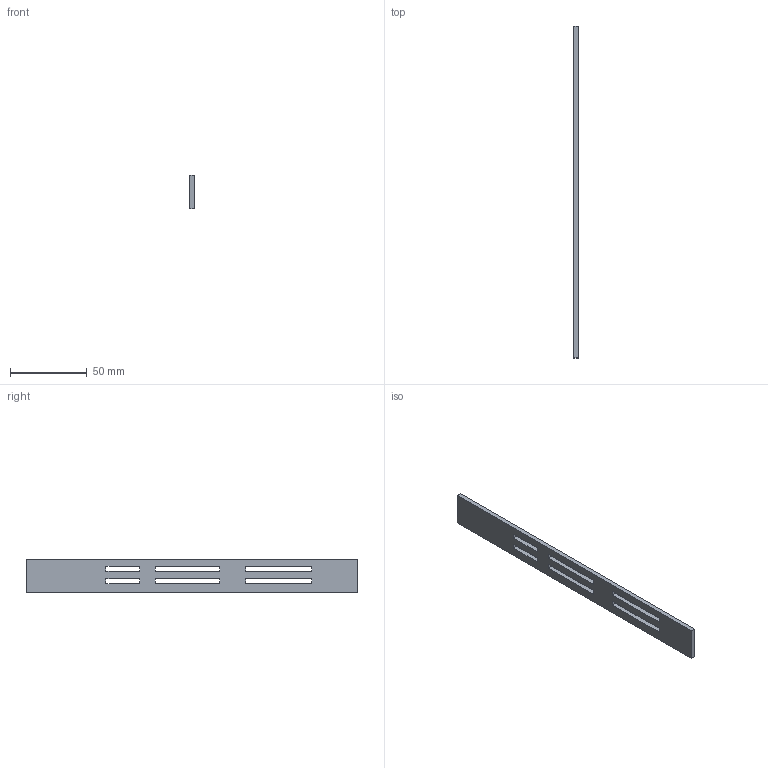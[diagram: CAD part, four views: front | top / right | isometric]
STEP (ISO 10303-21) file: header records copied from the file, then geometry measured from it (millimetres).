
FILE_DESCRIPTION(('FreeCAD Model'),'2;1');
FILE_NAME('Open CASCADE Shape Model','2026-10-15T22:53:25',('FreeCAD'),( 'FreeCAD'),'Open CASCADE STEP processor 7.8','FreeCAD','Unknown');
FILE_SCHEMA(('AUTOMOTIVE_DESIGN { 1 0 10303 214 1 1 1 1 }'));
Length unit declared in the file: millimetre
Products named in the file (1): Open CASCADE STEP translator 7.8 8
Bounding box: 3 x 216 x 22 mm (x, y, z)
Volume: 12201.6 mm3; surface area: 10961.6 mm2
Topology: 1 solids, 1 shells, 30 faces, 84 edges, 56 vertices
Faces by surface type: plane 30
Entity records: 982 total; most frequent: CARTESIAN_POINT 171, ORIENTED_EDGE 168, DIRECTION 146, EDGE_CURVE 84, LINE 84, VECTOR 84, VERTEX_POINT 56, FACE_BOUND 42
